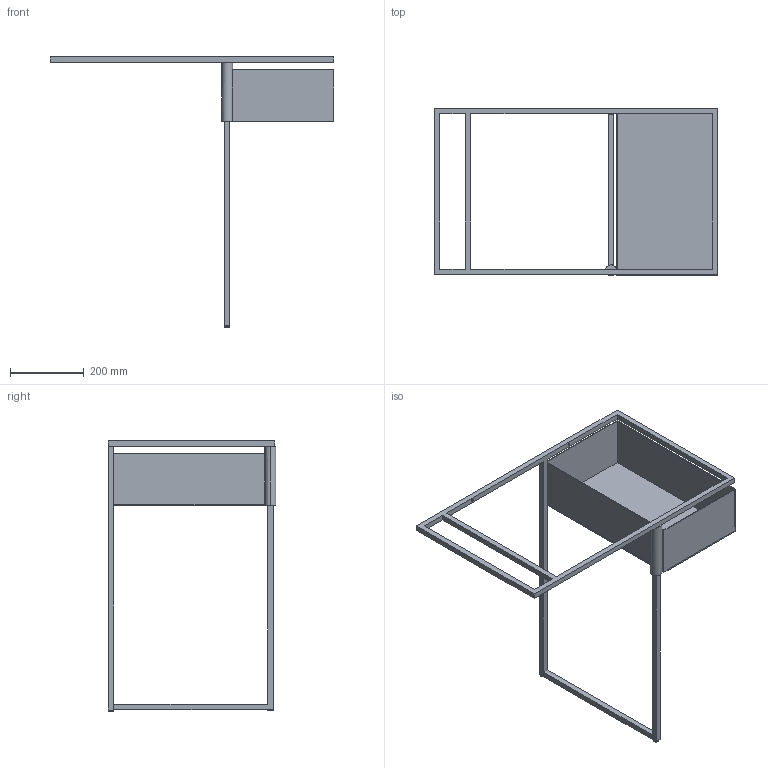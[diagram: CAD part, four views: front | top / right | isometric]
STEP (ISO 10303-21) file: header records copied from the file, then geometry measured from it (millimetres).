
FILE_DESCRIPTION(('CATIA V5 STEP Exchange'),'2;1');
FILE_NAME('C:\Users\167035\Downloads\3D_7722.stp','2025-05-21T08:44:29+00:00',('none'),('none'),'CATIA Version 5 Release 19 SP 5 (IN-10)','CATIA V5 STEP AP214','none');
FILE_SCHEMA(('AUTOMOTIVE_DESIGN { 1 0 10303 214 1 1 1 1 }'));
Length unit declared in the file: millimetre
Products named in the file (1): Struttura art 7722
Bounding box: 770 x 455.02 x 733 mm (x, y, z)
Volume: 1774864.5 mm3; surface area: 939427.8 mm2
Topology: 2 solids, 2 shells, 61 faces, 158 edges, 101 vertices
Faces by surface type: plane 49, cylinder 12
Entity records: 1760 total; most frequent: ORIENTED_EDGE 316, CARTESIAN_POINT 302, DIRECTION 242, EDGE_CURVE 158, VECTOR 127, LINE 127, VERTEX_POINT 101, AXIS2_PLACEMENT_3D 74
